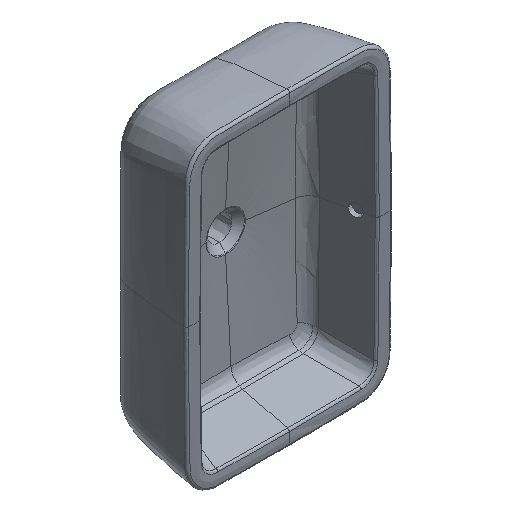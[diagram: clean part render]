
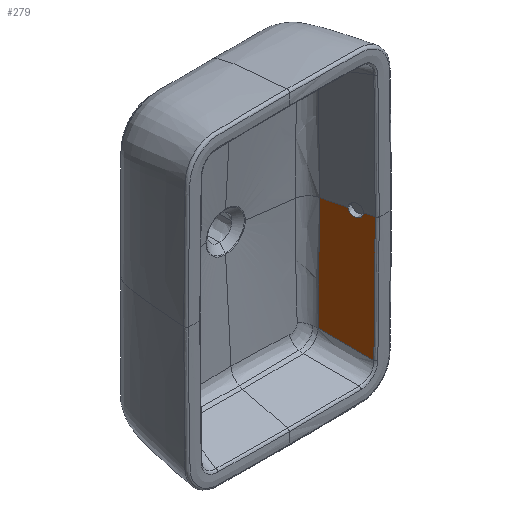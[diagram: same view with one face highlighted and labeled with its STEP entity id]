
A CAD part, isometric view. The second image highlights one B-rep face of the part: STEP entity #279.
In plain terms, the highlighted free-form (B-spline) face has degree [3, 3] with [6, 5] control points.
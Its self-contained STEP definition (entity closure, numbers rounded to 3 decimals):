
#115=(
BOUNDED_CURVE()
B_SPLINE_CURVE(3,(#3770,#3771,#3772,#3773,#3774,#3775,#3776,#3777,#3778,
#3779),.UNSPECIFIED.,.F.,.F.)
B_SPLINE_CURVE_WITH_KNOTS((4,2,2,2,4),(0.,0.5,0.75,0.875,1.),
 .UNSPECIFIED.)
CURVE()
GEOMETRIC_REPRESENTATION_ITEM()
RATIONAL_B_SPLINE_CURVE((1.,1.,1.,1.,1.,1.,1.,1.,1.,1.))
REPRESENTATION_ITEM('')
);
#144=B_SPLINE_SURFACE_WITH_KNOTS('',3,3,((#8888,#8889,#8890,#8891,#8892),
(#8893,#8894,#8895,#8896,#8897),(#8898,#8899,#8900,#8901,#8902),(#8903,
#8904,#8905,#8906,#8907),(#8908,#8909,#8910,#8911,#8912),(#8913,#8914,#8915,
#8916,#8917)),.UNSPECIFIED.,.F.,.F.,.F.,(4,1,1,4),(4,1,4),(0.,0.048,
0.048,1.),(0.,0.5,1.),.UNSPECIFIED.);
#202=LINE('',#8878,#233);
#203=LINE('',#8887,#234);
#233=VECTOR('',#1990,1.);
#234=VECTOR('',#1991,1.);
#279=ADVANCED_FACE('',(#395),#144,.T.);
#395=FACE_OUTER_BOUND('',#504,.T.);
#504=EDGE_LOOP('',(#788,#789,#790,#791,#792,#793,#794));
#788=ORIENTED_EDGE('',*,*,#1437,.F.);
#789=ORIENTED_EDGE('',*,*,#1518,.F.);
#790=ORIENTED_EDGE('',*,*,#1519,.T.);
#791=ORIENTED_EDGE('',*,*,#1490,.T.);
#792=ORIENTED_EDGE('',*,*,#1433,.F.);
#793=ORIENTED_EDGE('',*,*,#1520,.T.);
#794=ORIENTED_EDGE('',*,*,#1521,.T.);
#1230=VERTEX_POINT('',#3768);
#1232=VERTEX_POINT('',#3780);
#1234=VERTEX_POINT('',#3825);
#1235=VERTEX_POINT('',#3836);
#1277=VERTEX_POINT('',#8047);
#1292=VERTEX_POINT('',#8879);
#1293=VERTEX_POINT('',#8886);
#1433=EDGE_CURVE('',#1230,#1232,#115,.T.);
#1437=EDGE_CURVE('',#1234,#1235,#1720,.T.);
#1490=EDGE_CURVE('',#1277,#1232,#1759,.T.);
#1518=EDGE_CURVE('',#1292,#1234,#202,.T.);
#1519=EDGE_CURVE('',#1292,#1277,#1780,.T.);
#1520=EDGE_CURVE('',#1230,#1293,#1781,.T.);
#1521=EDGE_CURVE('',#1293,#1235,#203,.T.);
#1720=B_SPLINE_CURVE_WITH_KNOTS('',3,(#3826,#3827,#3828,#3829,#3830,#3831,
#3832,#3833,#3834,#3835),.UNSPECIFIED.,.F.,.F.,(4,2,2,2,4),(0.,0.25,0.5,
0.75,1.),.UNSPECIFIED.);
#1759=B_SPLINE_CURVE_WITH_KNOTS('',3,(#8043,#8044,#8045,#8046),
 .UNSPECIFIED.,.F.,.F.,(4,4),(0.,1.),.UNSPECIFIED.);
#1780=B_SPLINE_CURVE_WITH_KNOTS('',3,(#8880,#8881,#8882,#8883),
 .UNSPECIFIED.,.F.,.F.,(4,4),(0.,1.),.UNSPECIFIED.);
#1781=B_SPLINE_CURVE_WITH_KNOTS('',1,(#8884,#8885),.UNSPECIFIED.,.F.,.F.,
(2,2),(0.,1.),.UNSPECIFIED.);
#1990=DIRECTION('',(0.242,-0.97,0.));
#1991=DIRECTION('',(-0.242,0.97,0.));
#3768=CARTESIAN_POINT('',(170.049,4.632,0.));
#3770=CARTESIAN_POINT('',(170.049,4.632,0.));
#3771=CARTESIAN_POINT('',(170.049,4.632,-40.));
#3772=CARTESIAN_POINT('',(169.825,4.628,-80.));
#3773=CARTESIAN_POINT('',(169.153,4.627,-139.996));
#3774=CARTESIAN_POINT('',(168.873,4.627,-159.995));
#3775=CARTESIAN_POINT('',(168.368,4.63,-189.992));
#3776=CARTESIAN_POINT('',(168.185,4.632,-199.99));
#3777=CARTESIAN_POINT('',(167.792,4.636,-219.987));
#3778=CARTESIAN_POINT('',(167.58,4.641,-229.985));
#3779=CARTESIAN_POINT('',(167.378,4.554,-239.983));
#3780=CARTESIAN_POINT('',(167.378,4.554,-239.983));
#3825=CARTESIAN_POINT('',(159.501,46.937,0.));
#3826=CARTESIAN_POINT('',(159.501,46.937,0.));
#3827=CARTESIAN_POINT('',(159.501,46.937,-3.22));
#3828=CARTESIAN_POINT('',(159.836,45.584,-6.357));
#3829=CARTESIAN_POINT('',(160.943,41.131,-10.743));
#3830=CARTESIAN_POINT('',(161.715,38.029,-11.998));
#3831=CARTESIAN_POINT('',(163.253,31.86,-12.002));
#3832=CARTESIAN_POINT('',(164.023,28.779,-10.773));
#3833=CARTESIAN_POINT('',(165.151,24.27,-6.341));
#3834=CARTESIAN_POINT('',(165.485,22.937,-3.221));
#3835=CARTESIAN_POINT('',(165.485,22.937,0.));
#3836=CARTESIAN_POINT('',(165.485,22.937,0.));
#8043=CARTESIAN_POINT('',(146.119,91.631,-218.673));
#8044=CARTESIAN_POINT('',(153.211,62.609,-225.788));
#8045=CARTESIAN_POINT('',(160.297,33.584,-232.891));
#8046=CARTESIAN_POINT('',(167.378,4.554,-239.983));
#8047=CARTESIAN_POINT('',(146.119,91.631,-218.673));
#8878=CARTESIAN_POINT('',(153.934,69.265,0.));
#8879=CARTESIAN_POINT('',(148.548,90.865,0.));
#8880=CARTESIAN_POINT('',(148.548,90.865,0.));
#8881=CARTESIAN_POINT('',(148.485,91.12,-72.885));
#8882=CARTESIAN_POINT('',(147.675,91.376,-145.781));
#8883=CARTESIAN_POINT('',(146.119,91.631,-218.673));
#8884=CARTESIAN_POINT('',(173.487,-9.157,0.));
#8885=CARTESIAN_POINT('',(134.403,147.6,0.));
#8886=CARTESIAN_POINT('',(169.888,5.278,0.));
#8887=CARTESIAN_POINT('',(152.803,73.8,0.));
#8888=CARTESIAN_POINT('',(173.465,-9.071,0.));
#8889=CARTESIAN_POINT('',(173.465,-9.071,-78.483));
#8890=CARTESIAN_POINT('',(171.74,-9.071,-235.477));
#8891=CARTESIAN_POINT('',(166.561,-9.071,-392.452));
#8892=CARTESIAN_POINT('',(163.972,-9.071,-470.939));
#8893=CARTESIAN_POINT('',(172.837,-6.552,0.));
#8894=CARTESIAN_POINT('',(172.837,-6.552,-78.478));
#8895=CARTESIAN_POINT('',(171.112,-6.552,-235.463));
#8896=CARTESIAN_POINT('',(165.933,-6.552,-392.429));
#8897=CARTESIAN_POINT('',(163.344,-6.552,-470.912));
#8898=CARTESIAN_POINT('',(172.206,-4.02,0.));
#8899=CARTESIAN_POINT('',(172.206,-4.02,-78.474));
#8900=CARTESIAN_POINT('',(170.481,-4.02,-235.449));
#8901=CARTESIAN_POINT('',(165.302,-4.02,-392.406));
#8902=CARTESIAN_POINT('',(162.713,-4.02,-470.884));
#8903=CARTESIAN_POINT('',(159.185,48.203,0.));
#8904=CARTESIAN_POINT('',(159.185,48.203,-78.378));
#8905=CARTESIAN_POINT('',(157.462,48.203,-235.163));
#8906=CARTESIAN_POINT('',(152.29,48.203,-391.929));
#8907=CARTESIAN_POINT('',(149.704,48.203,-470.311));
#8908=CARTESIAN_POINT('',(146.792,97.908,0.));
#8909=CARTESIAN_POINT('',(146.792,97.908,-78.287));
#8910=CARTESIAN_POINT('',(145.071,97.908,-234.891));
#8911=CARTESIAN_POINT('',(139.905,97.908,-391.474));
#8912=CARTESIAN_POINT('',(137.322,97.908,-469.766));
#8913=CARTESIAN_POINT('',(134.403,147.6,0.));
#8914=CARTESIAN_POINT('',(134.403,147.6,-78.196));
#8915=CARTESIAN_POINT('',(132.683,147.6,-234.618));
#8916=CARTESIAN_POINT('',(127.524,147.6,-391.021));
#8917=CARTESIAN_POINT('',(124.944,147.6,-469.222));
